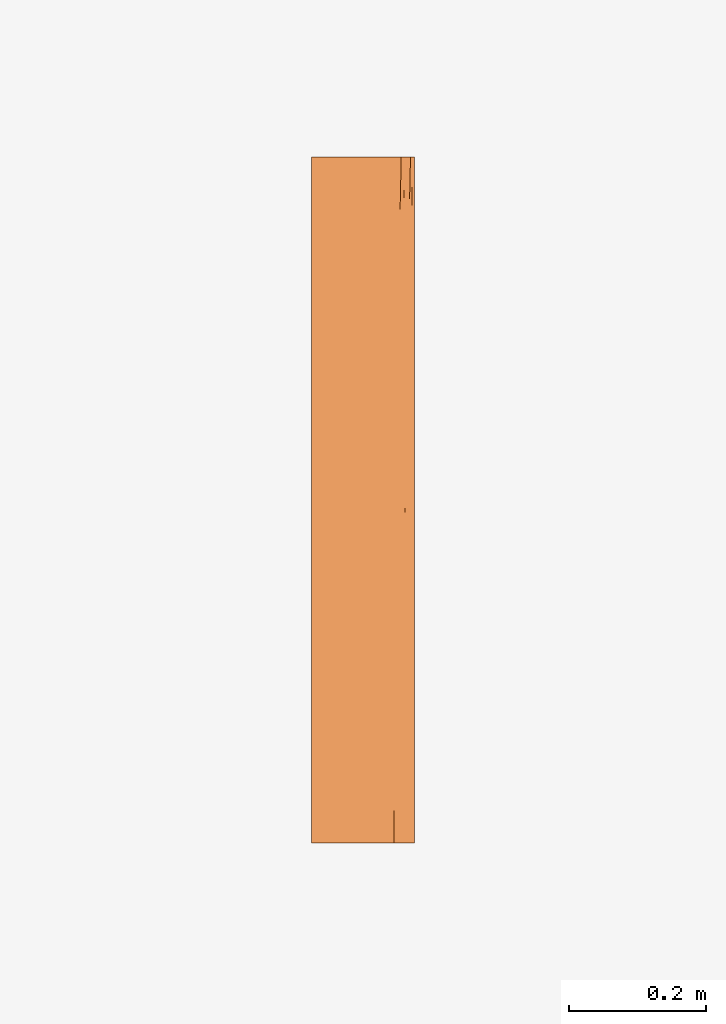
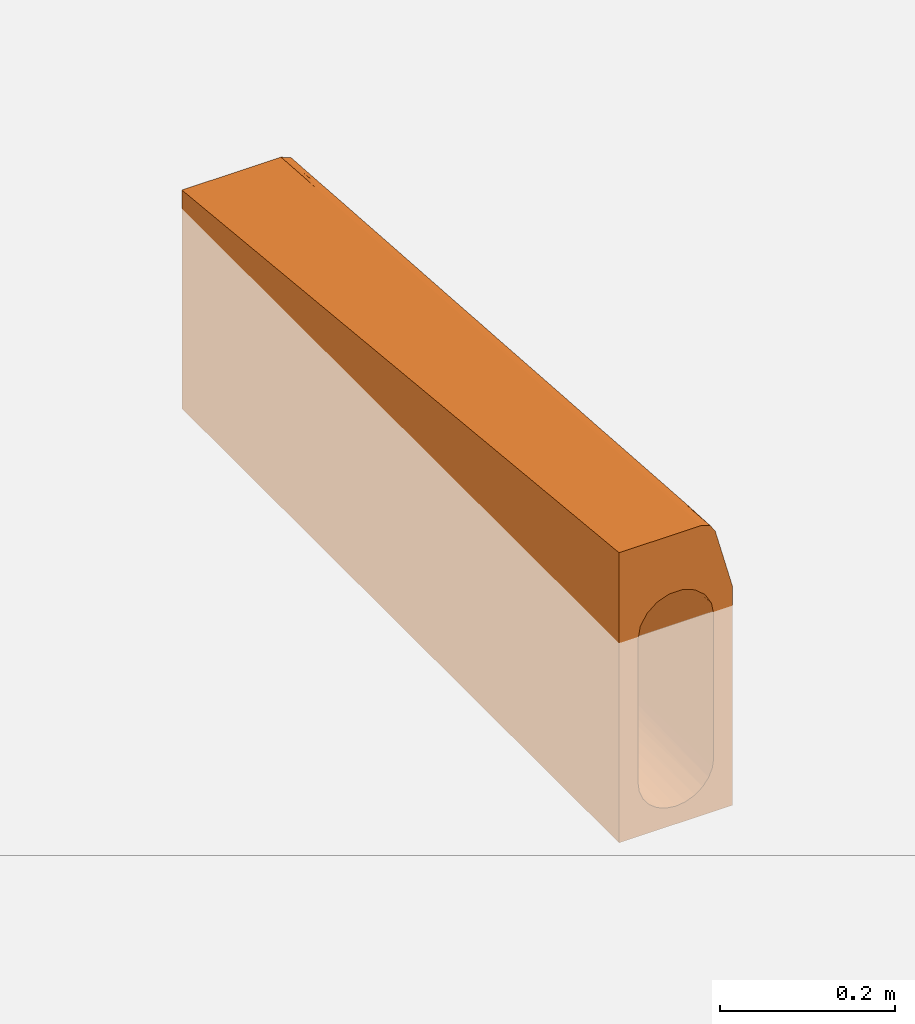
# One storey, part 2 of 2: 1 proxy.
"""IFC2X3 building model written with IfcOpenShell, lengths in millimetres."""

from ifc_helpers import new_model, entity, si_unit, converted_unit, direction, frame, origin, place, context, subcontext, project, spatial, faceted_brep, source, transform, mapped, material, element, save


model = new_model("IFC2X3")

# Units and contexts
model_context = context("Model", 3, precision=1e-06, world=origin(), true_north=direction((2.0, 6.12303176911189e-17, 1.0)))
context_of_model = context(None, 3, precision=1e-06, world=origin(), true_north=direction((2.0, 6.12303176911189e-17, 1.0)))
body_context = subcontext(model_context, "Body", "Model", "MODEL_VIEW")
ifc_project = project(units=[si_unit("LENGTHUNIT", "METRE", prefix="MILLI"), si_unit("AREAUNIT", "SQUARE_METRE", prefix="MILLI"), si_unit("VOLUMEUNIT", "CUBIC_METRE", prefix="MILLI"), converted_unit("PLANEANGLEUNIT", "DEGREE", entity("IfcRatioMeasure", 0.0174532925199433), si_unit("PLANEANGLEUNIT", "RADIAN"), dimensions=[0, 0, 0, 0, 0, 0, 0]), si_unit("TIMEUNIT", "SECOND")], contexts=[model_context, context_of_model])

# Site, building, storey
site_placement = place(None, origin())
site = spatial("IfcSite", under=ifc_project, at=site_placement, Name="Default", CompositionType="ELEMENT")
building_placement = place(site_placement, origin())
building = spatial("IfcBuilding", under=site, at=building_placement, CompositionType="ELEMENT")
storey_placement = place(building_placement, origin())
storey = spatial("IfcBuildingStorey", under=building, at=storey_placement, Name="Level 1", CompositionType="ELEMENT", Elevation=0.0)

# Proxy
ifc_material = material(Name="ACO Polymer Concrete.")
shared_shape = source(origin(), body_context, "Body", "Brep", [
    faceted_brep([(-75.0, 1000.0, -280.0), (-12.9409522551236, 1000.0, -253.296291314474), (0.0, 1000.0, -255.0), (75.0, 1000.0, -280.0), (-25.0, 1000.0, -248.301270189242), (-48.296291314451, 1000.0, -217.940952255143), (-43.3012701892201, 1000.0, -230.0), (-35.3553390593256, 1000.0, -240.355339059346), (-50.0, 1000.0, -205.0), (12.9409522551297, 1000.0, -253.296291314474), (25.0, 1000.0, -248.301270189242), (35.3553390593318, 1000.0, -240.355339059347), (43.3012701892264, 1000.0, -230.0), (48.2962913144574, 1000.0, -217.940952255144), (50.0, 1000.0, -205.0), (50.0, 1000.0, -105.0), (75.0, 1000.0, 6.0), (-50.0, 1000.0, -105.0), (-75.0, 1000.0, 25.0), (-46.9862597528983, 1000.0, -87.9034683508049), (-25.0056312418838, 1000.0, -61.7019814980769), (-31.658568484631, 1000.0, -67.2868339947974), (-38.3115057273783, 1000.0, -72.8716864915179), (-8.68546404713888, 1000.0, -55.7601511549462), (-16.8455476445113, 1000.0, -58.7310663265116), (56.0, 1000.0, 25.0), (38.2973704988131, 1000.0, -72.8548384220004), (25.0026002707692, 1000.0, -61.7002311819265), (46.9852028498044, 1000.0, -87.9005639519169), (42.6412866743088, 1000.0, -80.3777011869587), (8.67369085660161, 1000.0, -55.7580759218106), (59.3587572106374, 1000.0, 23.6087572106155), (62.7175144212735, 1000.0, 22.2175144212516), (16.8381455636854, 1000.0, -58.7291535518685), (75.0, 0.0, -280.0), (25.0, 0.0, -248.301270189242), (12.9409522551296, 0.0, -253.296291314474), (35.3553390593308, 0.0, -240.355339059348), (0.0, 0.0, -255.0), (50.0, 0.0, -205.0), (48.2962913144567, 0.0, -217.940952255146), (75.0, 0.0, 25.0), (43.3012701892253, 0.0, -230.0), (-12.9409522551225, 0.0, -253.296291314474), (-75.0, 0.0, -280.0), (-25.0, 0.0, -248.301270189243), (-35.3553390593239, 0.0, -240.355339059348), (-43.3012701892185, 0.0, -230.0), (-48.2962913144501, 0.0, -217.940952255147), (-50.0, 0.0, -205.0), (-50.0, 0.0, -5.0), (-75.0, 0.0, 125.0), (50.0, 0.0, -5.0), (46.9852028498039, 0.0, 12.099436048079), (38.2973704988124, 0.0, 27.145161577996), (42.6412866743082, 0.0, 19.6222988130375), (51.9784586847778, 0.0, 110.917561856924), (50.2819277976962, 0.0, 113.456599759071), (33.6258679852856, 0.0, 125.0), (8.67369085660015, 0.0, 44.2419240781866), (25.0026002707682, 0.0, 38.2997688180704), (-38.3115057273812, 0.0, 27.1283135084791), (-31.6585684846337, 0.0, 32.7131660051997), (-25.0056312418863, 0.0, 38.2980185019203), (-46.9862597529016, 0.0, 12.0965316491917), (-42.6488827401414, 0.0, 19.6124225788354), (16.8381455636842, 0.0, 41.2708464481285), (-16.8455476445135, 0.0, 41.2689336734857), (-8.68546404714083, 0.0, 44.2398488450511), (46.1939766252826, 500.0, -224.134171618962), (6.52630960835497, 707.441691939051, -254.572243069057), (19.1341716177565, 500.0, -251.193976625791), (39.6676670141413, 358.503175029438, -235.438071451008), (39.6676670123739, 707.441691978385, -235.43807145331), (30.438071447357, 641.496825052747, -244.667667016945), (30.4380714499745, 292.558308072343, -244.667667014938), (-39.6676670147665, 292.558308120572, -235.438071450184), (-30.438071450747, 358.50317494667, -244.667667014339), (-39.6676670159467, 641.496825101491, -235.438071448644), (-30.4380714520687, 707.441691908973, -244.667667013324), (6.52630961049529, 358.503174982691, -254.572243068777), (49.03926401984, 322.335450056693, -214.75451610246), (50.0, 500.0, -205.0), (49.0392640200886, 640.187474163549, -214.754516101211), (-6.52630961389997, 641.496825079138, -254.572243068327), (-6.52630961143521, 292.558308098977, -254.572243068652), (-19.1341716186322, 500.0, -251.193976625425), (-46.1939766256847, 500.0, -224.134171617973), (-50.0, 500.0, -205.0), (-49.0392640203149, 359.81252633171, -214.754516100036), (-49.0392640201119, 677.664550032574, -214.754516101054), (50.0, 249.999972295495, -29.9999972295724), (50.0, 499.99994459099, -54.9999944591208), (-50.0, 749.999986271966, -79.9999986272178), (-47.6007168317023, 198.961592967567, -9.59348772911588), (-25.8557514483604, 381.225506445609, -0.326755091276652), (-23.0536298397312, 544.632597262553, -15.0951388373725), (-17.1055216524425, 307.958902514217, 11.187097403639), (-12.9447709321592, 153.979450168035, 27.8973229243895), (-0.00597957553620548, 230.687103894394, 21.9312892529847), (-44.650418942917, 500.0, -32.4979981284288), (-48.3604248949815, 395.509919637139, -31.8518067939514), (-48.5076273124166, 624.999980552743, -55.3752262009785), (-43.3060717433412, 307.990579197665, -10.8073763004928), (-32.1474039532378, 769.343213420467, -43.6388331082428), (-32.1474045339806, 500.0, -16.7045122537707), (-43.3060717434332, 692.00942080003, -49.2092604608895), (-25.157690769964, 720.682822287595, -33.8584384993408), (-17.1055216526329, 692.041097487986, -27.2211220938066), (-24.4812088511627, 234.652858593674, 15.1313930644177), (-11.8796041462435, 520.786820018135, -8.51043100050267), (-32.1474039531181, 230.656786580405, 10.2298095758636), (-40.964498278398, 153.995289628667, 8.26944173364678), (-48.6582513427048, 823.898812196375, -75.8844661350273), (-39.202486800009, 436.631630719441, -17.6282628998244), (-0.00597957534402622, 769.312896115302, -31.9312899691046), (-10.9260649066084, 831.067565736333, -39.3151476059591), (-21.1360367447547, 846.020550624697, -44.2890552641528), (17.0982552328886, 307.956352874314, 11.1899972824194), (7.71806991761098, 381.53077334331, 6.24764529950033), (21.1829603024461, 500.0, -9.7089170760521), (32.1376404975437, 230.697693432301, 10.2339127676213), (32.1376445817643, 500.0, -16.6963213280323), (43.2998030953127, 307.950522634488, -10.7925113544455), (48.6581031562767, 176.09426945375, -11.1033851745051), (44.6482820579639, 500.0, -32.4937584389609), (43.2998030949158, 692.049477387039, -49.2024068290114), (48.3594395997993, 604.595038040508, -52.7565670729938), (45.1901018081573, 151.860162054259, 1.2115233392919), (32.1376404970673, 769.302306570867, -43.6265485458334), (25.6379058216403, 688.112185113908, -30.8845626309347), (22.9925486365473, 831.092166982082, -43.7094114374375), (12.935262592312, 846.021826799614, -41.3043671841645), (17.0982552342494, 692.043647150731, -27.2187321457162), (47.5960887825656, 801.056384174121, -69.7885782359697), (40.9545960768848, 846.024746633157, -60.9193601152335), (-45.1907468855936, 848.162570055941, -68.420079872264), (9.26665156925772, 235.01833726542, 20.6319547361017), (21.1309469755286, 153.978166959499, 24.917556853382), (10.8471002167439, 545.000987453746, -10.6908740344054), (48.5059114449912, 374.999950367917, -30.3683605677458), (39.19705824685, 563.304996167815, -30.2887434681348), (-50.0, 499.999972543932, -54.9999972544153), (-39.512510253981, 828.414571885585, -57.2022415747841), (8.50621305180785, 720.679634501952, -27.7968325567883), (-0.00598150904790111, 500.0, -5.00000035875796), (-6.96846541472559, 365.343546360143, 7.977669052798), (25.1483978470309, 279.309706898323, 10.2842822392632), (-50.0, 249.999986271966, -29.9999986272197), (50.0, 749.999972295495, -79.9999972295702), (39.5134532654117, 171.451438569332, 8.49285560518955), (73.1032664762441, 917.610489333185, 14.6441065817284), (71.2065331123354, 835.220985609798, 23.2882124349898), (35.4692616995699, 82.389507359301, 116.761049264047), (52.6622443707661, 130.664259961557, 102.922193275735), (53.0488056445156, 180.084445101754, 99.0483888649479), (50.3842860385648, 111.974668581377, 107.326895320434), (68.1062084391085, 878.826826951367, 29.9729025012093), (67.7811188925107, 802.667627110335, 35.5771749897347), (70.3074081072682, 876.415743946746, 26.611467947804), (59.379668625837, 585.220997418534, 61.5926209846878), (58.5851481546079, 500.177370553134, 69.0001426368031), (61.1594051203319, 555.349475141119, 61.8793829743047), (63.0389610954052, 605.14687981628, 55.7966744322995), (69.3097997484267, 752.831481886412, 31.9323182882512), (69.2162122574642, 794.026238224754, 32.9724514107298), (67.3653874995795, 711.636732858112, 41.1709947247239), (54.4447954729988, 234.569636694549, 93.329999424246), (55.3350979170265, 205.973774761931, 93.5145476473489), (59.2110541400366, 876.415743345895, 36.3908898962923), (64.0137266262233, 932.20679634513, 29.2106873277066), (59.808755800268, 941.135028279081, 30.1808627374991), (54.2560607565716, 512.833116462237, 71.34245881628), (61.3002840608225, 436.084269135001, 68.3319219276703), (63.4892293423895, 500.0, 58.4587809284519), (61.2949700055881, 475.718307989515, 66.6363549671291), (43.5392248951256, 93.1825129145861, 113.98789848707), (44.8496182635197, 169.063602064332, 106.567121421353), (40.1908798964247, 126.415762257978, 111.985785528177), (54.3935402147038, 426.694707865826, 78.624143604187), (50.2905691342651, 423.27346580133, 81.2450589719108), (47.713323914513, 464.468217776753, 78.1872573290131), (50.3530393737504, 539.806440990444, 70.4368413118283), (44.9396377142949, 505.662955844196, 74.4337044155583), (41.6884879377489, 189.295800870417, 105.678676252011), (37.4393591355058, 170.441970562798, 107.955802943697), (46.6922837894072, 351.600530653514, 89.1085713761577), (51.2488290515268, 364.151400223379, 86.0294274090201), (53.875192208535, 82.3895106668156, 102.273455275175), (55.7619676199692, 573.853554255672, 65.162418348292), (57.3920424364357, 627.989881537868, 59.5056684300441), (53.7570343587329, 613.08558200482, 62.5671045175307), (61.8250976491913, 804.619360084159, 41.5533383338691), (57.5710499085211, 809.007824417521, 43.173567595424), (58.1029031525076, 748.322574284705, 48.5120189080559), (43.7882521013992, 275.825547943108, 96.9904270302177), (48.0148348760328, 288.473028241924, 94.4023175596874), (46.3932550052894, 407.177609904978, 83.9239524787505), (54.5896190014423, 758.839062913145, 48.6910157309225), (53.9754894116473, 686.982049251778, 55.633211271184), (48.1234608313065, 51.8381933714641, 114.332221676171), (45.3797016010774, 53.2017987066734, 116.464789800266), (45.1923351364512, 0.0, 121.07371346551), (53.6275241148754, 327.831961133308, 87.3255592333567), (54.3107613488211, 378.784197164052, 82.6295992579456), (45.5239222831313, 229.491408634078, 100.797613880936), (49.6520138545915, 240.964162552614, 97.6214614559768), (51.7241801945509, 206.375679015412, 98.7005612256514), (48.4340511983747, 180.925445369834, 103.543831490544), (38.9063204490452, 58.0616054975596, 118.771090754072), (36.5174847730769, 0.0, 124.01842836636), (39.4091015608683, 0.0, 123.036856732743), (50.0504826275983, 154.066046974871, 104.434668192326), (47.8685626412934, 105.311084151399, 110.271450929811), (57.6686589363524, 247.168518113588, 84.9852435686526), (55.7719255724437, 164.779014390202, 93.6293494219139), (59.5653924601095, 329.558028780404, 76.3411369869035), (58.2688057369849, 308.960659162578, 81.630721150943), (58.6170256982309, 288.363273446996, 80.663190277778), (46.8888660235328, 0.0, 118.534675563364), (50.9891349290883, 65.3641082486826, 109.82307443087), (53.110450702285, 95.998422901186, 104.070754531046), (54.4616738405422, 147.56126357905, 98.396468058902), (59.6217738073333, 421.902813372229, 72.9473544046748), (57.4051229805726, 414.779025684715, 76.708728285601), (56.748537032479, 355.749892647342, 81.7651849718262), (56.8624073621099, 257.031771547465, 87.4932942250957), (56.4213368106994, 288.363284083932, 86.7039725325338), (42.3007183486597, 0.0, 122.055285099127), (39.346104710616, 255.662955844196, 99.4337044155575), (53.0974708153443, 268.595339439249, 92.4890202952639), (61.5273109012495, 414.779014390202, 67.3999589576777), (59.1322948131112, 372.168530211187, 76.6619419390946), (41.2528502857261, 340.883941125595, 90.9116058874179), (43.0962440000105, 423.273448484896, 82.6726551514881), (61.9461473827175, 524.633702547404, 62.6291382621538), (63.6491220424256, 573.513837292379, 56.507532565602), (65.4511477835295, 585.220985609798, 49.517602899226), (65.8308232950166, 640.884159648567, 48.0615817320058), (64.056174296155, 657.394967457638, 50.8150306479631), (60.0586567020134, 675.674817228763, 53.6629431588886), (46.7830314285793, 588.052463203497, 66.1947536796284), (65.7260830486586, 813.097469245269, 37.5927306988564), (62.095822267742, 743.453341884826, 46.4859621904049), (52.3132125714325, 835.220985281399, 41.477901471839), (50.4698188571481, 752.831477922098, 49.7168522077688), (63.586159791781, 531.866249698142, 58.2966573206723), (67.9976627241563, 930.403080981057, 26.258079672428), (71.7972279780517, 941.726123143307, 20.0644834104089), (54.1566062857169, 917.610492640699, 33.2389507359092), (62.5082701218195, 457.389507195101, 62.9293699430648), (72.3680328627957, 911.273595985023, 19.6389560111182), (72.7177010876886, 1000.0, 11.509956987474), (71.059593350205, 853.013195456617, 25.3941386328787), (48.5853969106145, 0.0, 115.995637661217), (67.4130662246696, 670.441971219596, 40.5764248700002), (65.6732960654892, 752.831486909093, 42.0349614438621), (56.9099850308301, 672.967960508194, 55.815194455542), (66.0762716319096, 1000.0, 20.8262716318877), (48.6264251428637, 670.441970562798, 57.9558029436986), (64.8764926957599, 867.147518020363, 34.1194715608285), (71.0763649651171, 1000.0, 15.4724929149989), (69.4350288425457, 1000.0, 19.4350288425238)], [[[0, 1, 2, 3]], [[1, 0, 4]], [[5, 6, 0]], [[7, 4, 0]], [[6, 7, 0]], [[0, 8, 5]], [[3, 9, 10]], [[9, 3, 2]], [[3, 10, 11]], [[11, 12, 3]], [[13, 14, 3]], [[12, 13, 3]], [[3, 14, 15, 16]], [[17, 8, 0, 18]], [[19, 17, 18]], [[18, 20, 21, 22]], [[18, 22, 19]], [[23, 24, 18, 25]], [[16, 26, 27, 25]], [[15, 28, 16]], [[16, 28, 29, 26]], [[25, 30, 23]], [[16, 25, 31, 32]], [[25, 27, 33, 30]], [[34, 35, 36]], [[35, 34, 37]], [[34, 36, 38]], [[39, 40, 34, 41]], [[42, 37, 34]], [[40, 42, 34]], [[38, 43, 44, 34]], [[44, 45, 46]], [[45, 44, 43]], [[46, 47, 44]], [[48, 49, 44]], [[47, 48, 44]], [[44, 49, 50, 51]], [[52, 41, 53]], [[41, 52, 39]], [[41, 54, 55, 53]], [[56, 57, 58, 59]], [[41, 56, 60, 54]], [[51, 61, 62, 63]], [[50, 64, 51]], [[51, 64, 65, 61]], [[56, 59, 66, 60]], [[51, 63, 67, 68]], [[68, 59, 58, 51]], [[18, 0, 44, 51]], [[0, 3, 34, 44]], [[16, 41, 34, 3]], [[42, 40, 69]], [[9, 70, 71]], [[72, 73, 74, 75]], [[69, 72, 42]], [[36, 35, 71]], [[76, 46, 77]], [[7, 78, 79]], [[74, 71, 75]], [[12, 73, 69]], [[36, 71, 80]], [[81, 69, 40]], [[82, 14, 83, 81]], [[39, 81, 40]], [[72, 37, 42]], [[11, 10, 74]], [[69, 13, 12]], [[2, 1, 84]], [[73, 72, 69]], [[71, 74, 10]], [[77, 46, 45]], [[71, 10, 9]], [[80, 38, 36]], [[70, 80, 71]], [[80, 70, 84, 85]], [[45, 43, 86]], [[85, 38, 80]], [[2, 84, 70]], [[86, 77, 45]], [[48, 47, 87]], [[76, 47, 46]], [[75, 37, 72]], [[78, 87, 76]], [[7, 79, 4]], [[88, 49, 89, 90]], [[84, 1, 86]], [[86, 1, 4]], [[75, 35, 37]], [[7, 6, 78]], [[79, 77, 86]], [[2, 70, 9]], [[78, 6, 87]], [[5, 87, 6]], [[85, 43, 38]], [[5, 90, 87]], [[11, 73, 12]], [[11, 74, 73]], [[85, 84, 86]], [[5, 8, 90]], [[35, 75, 71]], [[4, 79, 86]], [[77, 79, 78, 76]], [[43, 85, 86]], [[47, 76, 87]], [[69, 81, 83]], [[82, 81, 39]], [[83, 13, 69]], [[13, 83, 14]], [[87, 90, 89]], [[88, 90, 8]], [[89, 48, 87]], [[48, 89, 49]], [[39, 52, 91, 92]], [[15, 14, 82, 39]], [[49, 88, 17, 93]], [[65, 64, 94]], [[95, 96, 97]], [[68, 98, 99]], [[100, 101, 102]], [[103, 94, 101]], [[104, 105, 106]], [[96, 107, 108]], [[109, 98, 67]], [[96, 108, 110]], [[103, 111, 112]], [[111, 61, 112]], [[113, 93, 17]], [[113, 102, 93]], [[106, 114, 100]], [[108, 115, 110]], [[116, 117, 24]], [[23, 30, 115]], [[118, 119, 120]], [[121, 54, 60]], [[100, 103, 101]], [[122, 123, 121]], [[20, 24, 117]], [[124, 91, 52]], [[125, 126, 127]], [[128, 124, 53]], [[129, 27, 26]], [[20, 117, 104]], [[129, 130, 131]], [[132, 131, 133]], [[29, 28, 134]], [[135, 126, 129]], [[136, 113, 19]], [[66, 137, 138]], [[68, 99, 59]], [[139, 120, 119]], [[137, 118, 138]], [[120, 130, 122]], [[131, 132, 33]], [[124, 140, 91]], [[126, 134, 127]], [[123, 141, 125]], [[125, 127, 140]], [[97, 109, 95]], [[93, 102, 142]], [[50, 94, 64]], [[91, 140, 92]], [[15, 134, 28]], [[114, 105, 111]], [[136, 22, 143]], [[108, 107, 117]], [[23, 116, 24]], [[144, 139, 145]], [[118, 137, 119]], [[146, 110, 145]], [[27, 131, 33]], [[141, 122, 129]], [[117, 116, 108]], [[147, 120, 122]], [[101, 142, 102]], [[102, 113, 136]], [[101, 148, 142]], [[94, 50, 148]], [[127, 92, 140]], [[140, 124, 128]], [[127, 149, 92]], [[134, 15, 149]], [[101, 94, 148]], [[94, 103, 112]], [[94, 112, 65]], [[111, 63, 62, 61]], [[112, 61, 65]], [[127, 134, 149]], [[135, 26, 29]], [[134, 135, 29]], [[26, 135, 129]], [[126, 135, 134]], [[106, 102, 136]], [[19, 113, 17]], [[103, 100, 114]], [[106, 100, 102]], [[103, 114, 111]], [[105, 114, 106]], [[123, 140, 128]], [[53, 124, 52]], [[126, 125, 141]], [[123, 125, 140]], [[126, 141, 129]], [[122, 141, 123]], [[106, 136, 143]], [[136, 19, 22]], [[143, 104, 106]], [[21, 104, 143]], [[123, 128, 150]], [[128, 55, 150]], [[150, 121, 123]], [[150, 54, 121]], [[54, 150, 55]], [[128, 53, 55]], [[21, 143, 22]], [[104, 117, 107]], [[116, 115, 108]], [[116, 23, 115]], [[107, 105, 104]], [[105, 107, 96]], [[105, 96, 95]], [[115, 145, 110]], [[110, 97, 96]], [[119, 99, 146]], [[95, 111, 105]], [[111, 95, 109]], [[146, 97, 110]], [[98, 97, 146]], [[111, 109, 63]], [[146, 99, 98]], [[68, 67, 98]], [[67, 63, 109]], [[97, 98, 109]], [[144, 115, 132]], [[132, 115, 30]], [[132, 30, 33]], [[133, 131, 130]], [[131, 27, 129]], [[133, 130, 120]], [[130, 129, 122]], [[133, 120, 139]], [[147, 138, 118]], [[132, 133, 144]], [[119, 145, 139]], [[145, 119, 146]], [[99, 119, 137]], [[137, 59, 99]], [[66, 59, 137]], [[138, 60, 66]], [[138, 121, 60]], [[121, 138, 147]], [[115, 144, 145]], [[144, 133, 139]], [[121, 147, 122]], [[147, 118, 120]], [[21, 20, 104]], [[41, 16, 151, 152]], [[18, 51, 58, 153]], [[154, 155, 156]], [[157, 158, 159]], [[160, 161, 162]], [[162, 163, 160]], [[164, 165, 166]], [[167, 155, 168]], [[169, 170, 171]], [[160, 172, 161]], [[173, 174, 175]], [[176, 177, 178]], [[179, 172, 180]], [[181, 182, 183]], [[178, 184, 185]], [[186, 187, 180]], [[188, 57, 56]], [[189, 190, 191]], [[171, 32, 31]], [[192, 193, 194]], [[186, 195, 196]], [[197, 180, 181]], [[194, 198, 199]], [[180, 187, 179]], [[200, 201, 202]], [[187, 203, 204]], [[184, 205, 195]], [[196, 205, 206]], [[207, 206, 208]], [[209, 58, 210, 211]], [[208, 212, 207]], [[208, 176, 213]], [[214, 168, 215]], [[216, 217, 218]], [[219, 220, 200]], [[185, 153, 178]], [[154, 220, 221]], [[222, 168, 155]], [[223, 224, 225]], [[203, 196, 206]], [[226, 217, 227]], [[168, 226, 167]], [[209, 178, 153]], [[184, 178, 177]], [[209, 176, 178]], [[176, 228, 201]], [[225, 204, 203]], [[176, 209, 211]], [[177, 205, 184]], [[208, 206, 205]], [[195, 229, 184]], [[229, 185, 184]], [[205, 196, 195]], [[208, 205, 177]], [[206, 230, 203]], [[230, 206, 207]], [[231, 232, 216]], [[203, 187, 196]], [[233, 229, 195]], [[234, 197, 181]], [[233, 195, 186]], [[196, 187, 186]], [[186, 197, 233]], [[187, 204, 179]], [[179, 161, 172]], [[224, 161, 179]], [[189, 172, 160]], [[234, 181, 183]], [[224, 175, 161]], [[235, 236, 162]], [[236, 237, 238]], [[165, 164, 152]], [[160, 239, 240]], [[191, 241, 182]], [[242, 192, 243]], [[244, 245, 198]], [[218, 217, 226]], [[235, 246, 236]], [[247, 157, 248]], [[169, 249, 244]], [[227, 232, 225]], [[173, 231, 250, 174]], [[232, 223, 225]], [[251, 252, 248]], [[253, 151, 251]], [[16, 252, 251]], [[242, 158, 157]], [[167, 230, 207]], [[225, 230, 227]], [[176, 208, 177]], [[212, 208, 213]], [[156, 212, 213]], [[212, 156, 155]], [[213, 201, 200]], [[220, 154, 156]], [[200, 156, 213]], [[254, 57, 220, 219]], [[220, 156, 200]], [[213, 176, 201]], [[154, 221, 222]], [[57, 188, 221]], [[57, 221, 220]], [[228, 176, 211]], [[228, 202, 201]], [[222, 188, 215]], [[188, 222, 221]], [[168, 222, 215]], [[166, 238, 255]], [[192, 194, 243]], [[256, 240, 239]], [[194, 199, 257]], [[166, 255, 164]], [[152, 151, 253]], [[166, 256, 239]], [[256, 166, 165]], [[239, 163, 238]], [[239, 238, 166]], [[180, 172, 181]], [[236, 246, 237]], [[237, 255, 238]], [[182, 181, 172]], [[189, 182, 172]], [[247, 258, 170]], [[241, 191, 259]], [[241, 183, 182]], [[171, 31, 249]], [[169, 193, 192]], [[170, 169, 260]], [[233, 197, 234]], [[186, 180, 197]], [[170, 260, 247]], [[171, 170, 32]], [[260, 157, 247]], [[247, 248, 261]], [[261, 248, 252]], [[261, 262, 247]], [[251, 248, 159]], [[251, 159, 253]], [[251, 151, 16]], [[159, 165, 253]], [[165, 152, 253]], [[31, 25, 249]], [[249, 169, 171]], [[242, 157, 260]], [[248, 157, 159]], [[192, 242, 260]], [[242, 256, 158]], [[169, 192, 260]], [[257, 243, 194]], [[240, 256, 243]], [[242, 243, 256]], [[169, 244, 193]], [[198, 194, 193]], [[244, 198, 193]], [[245, 199, 198]], [[199, 245, 259]], [[259, 191, 199]], [[191, 190, 257]], [[256, 165, 158]], [[159, 158, 165]], [[200, 202, 219]], [[217, 232, 227]], [[232, 217, 216]], [[167, 226, 227]], [[168, 214, 226]], [[218, 226, 214]], [[230, 167, 227]], [[155, 167, 207]], [[212, 155, 207]], [[155, 154, 222]], [[58, 209, 153]], [[224, 179, 204]], [[235, 161, 175]], [[163, 162, 236]], [[238, 163, 236]], [[160, 163, 239]], [[161, 235, 162]], [[173, 175, 223]], [[175, 246, 235]], [[237, 246, 174]], [[190, 160, 240]], [[182, 189, 191]], [[160, 190, 189]], [[257, 190, 240]], [[257, 240, 243]], [[191, 257, 199]], [[175, 174, 246]], [[173, 232, 231]], [[175, 224, 223]], [[232, 173, 223]], [[204, 225, 224]], [[225, 203, 230]], [[258, 247, 262]], [[258, 32, 170]], [[18, 24, 20]], [[16, 32, 258, 252]], [[258, 262, 261, 252]], [[58, 57, 254, 219]], [[219, 202, 228, 211]], [[219, 211, 210, 58]], [[39, 92, 149, 15]], [[17, 88, 8]], [[49, 93, 142, 148]], [[49, 148, 50]], [[41, 152, 164, 255]], [[41, 255, 237, 174]], [[41, 174, 250, 231]], [[41, 231, 216, 218]], [[41, 218, 214, 215]], [[41, 215, 188, 56]], [[18, 153, 185, 229]], [[18, 229, 233, 234]], [[18, 234, 183, 241]], [[18, 241, 259, 245]], [[18, 245, 244, 249]], [[18, 249, 25]]]),
])
proxy_placement = place(storey_placement, frame((-14541.5994818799, -705.326112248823, 0.0)))
element("IfcBuildingElementProxy", 1, at=proxy_placement, inside=storey, material=ifc_material, Name="Civil-Drainage-Channel-ACO-KerbDrain-HB405:4234 - LH drop kerb - 1000mm LG:4234 - LH drop kerb - 1000mm LG", ObjectType="4234 - LH drop kerb - 1000mm LG", CompositionType="ELEMENT", context=body_context, shape_type="MappedRepresentation", body=[
    mapped(shared_shape, transform((0.0, 0.0, 0.0), scale=1.0)),
])

save(model, "model.ifc")
